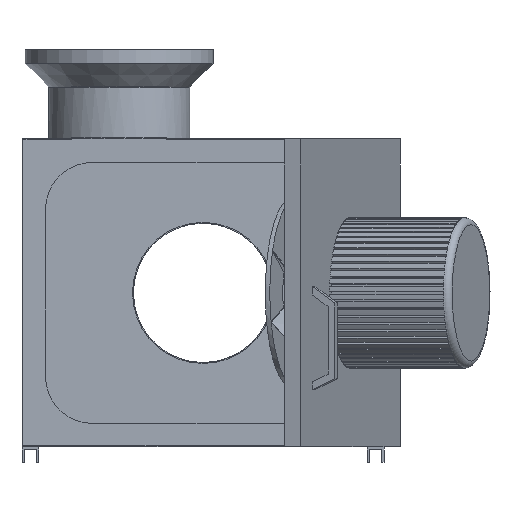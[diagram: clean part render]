
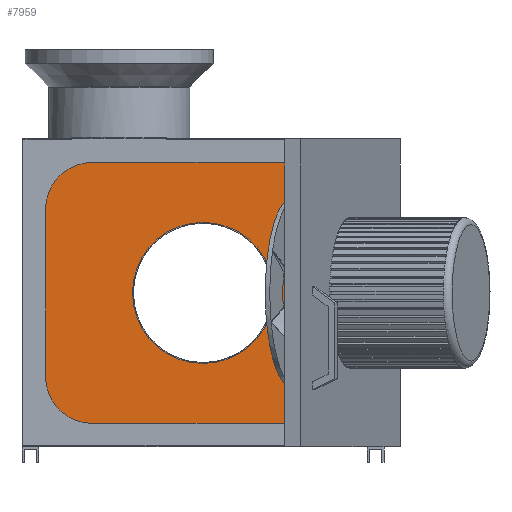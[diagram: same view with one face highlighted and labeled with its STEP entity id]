
A CAD part, left-side view. The second image highlights one B-rep face of the part: STEP entity #7959.
In plain terms, the highlighted planar face has unit normal (-1, 0, 0).
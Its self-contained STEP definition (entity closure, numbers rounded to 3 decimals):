
#899=LINE('',#13706,#1746);
#901=LINE('',#13710,#1748);
#903=LINE('',#13714,#1750);
#905=LINE('',#13717,#1752);
#1746=VECTOR('',#10843,10.);
#1748=VECTOR('',#10847,10.);
#1750=VECTOR('',#10851,10.);
#1752=VECTOR('',#10855,10.);
#2098=PLANE('',#8651);
#2134=FACE_BOUND('',#3058,.T.);
#2579=FACE_OUTER_BOUND('',#3057,.T.);
#3057=EDGE_LOOP('',(#7393,#7394,#7395,#7396));
#3058=EDGE_LOOP('',(#7397));
#3083=CIRCLE('',#7998,150.);
#3346=VERTEX_POINT('',#10924);
#4026=VERTEX_POINT('',#13703);
#4027=VERTEX_POINT('',#13705);
#4028=VERTEX_POINT('',#13709);
#4029=VERTEX_POINT('',#13713);
#4044=EDGE_CURVE('',#3346,#3346,#3083,.T.);
#5151=EDGE_CURVE('',#4026,#4027,#899,.F.);
#5153=EDGE_CURVE('',#4028,#4026,#901,.F.);
#5155=EDGE_CURVE('',#4027,#4029,#903,.F.);
#5157=EDGE_CURVE('',#4029,#4028,#905,.F.);
#7393=ORIENTED_EDGE('',*,*,#5157,.F.);
#7394=ORIENTED_EDGE('',*,*,#5155,.F.);
#7395=ORIENTED_EDGE('',*,*,#5151,.F.);
#7396=ORIENTED_EDGE('',*,*,#5153,.F.);
#7397=ORIENTED_EDGE('',*,*,#4044,.T.);
#7959=ADVANCED_FACE('',(#2579,#2134),#2098,.F.);
#7998=AXIS2_PLACEMENT_3D('',#10925,#8709,#8710);
#8651=AXIS2_PLACEMENT_3D('',#13718,#10856,#10857);
#8709=DIRECTION('center_axis',(1.,0.,0.));
#8710=DIRECTION('ref_axis',(0.,0.,1.));
#10843=DIRECTION('',(0.,1.,0.));
#10847=DIRECTION('',(0.,0.,-1.));
#10851=DIRECTION('',(0.,0.,1.));
#10855=DIRECTION('',(0.,-1.,0.));
#10856=DIRECTION('center_axis',(1.,0.,0.));
#10857=DIRECTION('ref_axis',(0.,0.,-1.));
#10924=CARTESIAN_POINT('',(-2.,0.,-150.));
#10925=CARTESIAN_POINT('Origin',(-2.,0.,0.));
#13703=CARTESIAN_POINT('',(-2.,383.,325.5));
#13705=CARTESIAN_POINT('',(-2.,-383.,325.5));
#13706=CARTESIAN_POINT('',(-2.,-192.5,325.5));
#13709=CARTESIAN_POINT('',(-2.,383.,-325.5));
#13710=CARTESIAN_POINT('',(-2.,383.,163.75));
#13713=CARTESIAN_POINT('',(-2.,-383.,-325.5));
#13714=CARTESIAN_POINT('',(-2.,-383.,-163.75));
#13717=CARTESIAN_POINT('',(-2.,192.5,-325.5));
#13718=CARTESIAN_POINT('Origin',(-2.,0.,0.));
